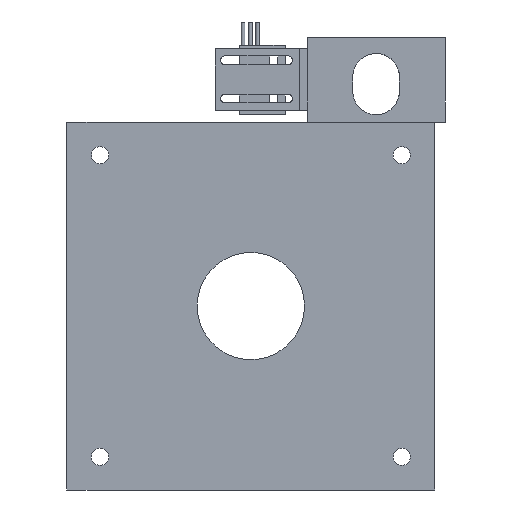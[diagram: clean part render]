
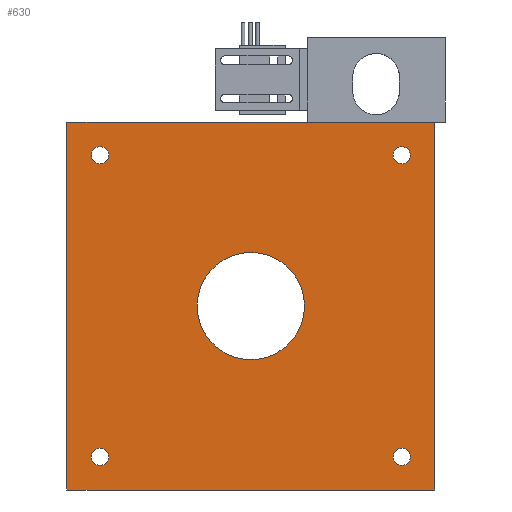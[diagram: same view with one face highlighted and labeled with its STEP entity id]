
A CAD part, front view. The second image highlights one B-rep face of the part: STEP entity #630.
In plain terms, the highlighted planar face has unit normal (0, -1, 0).
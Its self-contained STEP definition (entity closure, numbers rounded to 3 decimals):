
#93=DIRECTION('',(0.,0.,-1.));
#94=VECTOR('',#93,152.4);
#95=CARTESIAN_POINT('',(-76.2,-40.386,76.2));
#96=LINE('',#95,#94);
#97=DIRECTION('',(-1.,0.,0.));
#98=VECTOR('',#97,152.4);
#99=CARTESIAN_POINT('',(76.2,-40.386,76.2));
#100=LINE('',#99,#98);
#101=DIRECTION('',(0.,0.,1.));
#102=VECTOR('',#101,152.4);
#103=CARTESIAN_POINT('',(76.2,-40.386,-76.2));
#104=LINE('',#103,#102);
#105=DIRECTION('',(1.,0.,0.));
#106=VECTOR('',#105,152.4);
#107=CARTESIAN_POINT('',(-76.2,-40.386,-76.2));
#108=LINE('',#107,#106);
#109=CARTESIAN_POINT('',(62.5,-40.386,-62.5));
#110=DIRECTION('',(0.,1.,0.));
#111=DIRECTION('',(-1.,0.,0.));
#112=AXIS2_PLACEMENT_3D('',#109,#110,#111);
#114=CARTESIAN_POINT('',(62.5,-40.386,-62.5));
#115=DIRECTION('',(0.,1.,0.));
#116=DIRECTION('',(1.,0.,0.));
#117=AXIS2_PLACEMENT_3D('',#114,#115,#116);
#119=CARTESIAN_POINT('',(62.5,-40.386,62.5));
#120=DIRECTION('',(0.,-1.,0.));
#121=DIRECTION('',(-1.,0.,0.));
#122=AXIS2_PLACEMENT_3D('',#119,#120,#121);
#124=CARTESIAN_POINT('',(62.5,-40.386,62.5));
#125=DIRECTION('',(0.,-1.,0.));
#126=DIRECTION('',(1.,0.,0.));
#127=AXIS2_PLACEMENT_3D('',#124,#125,#126);
#129=CARTESIAN_POINT('',(-62.5,-40.386,-62.5));
#130=DIRECTION('',(0.,-1.,0.));
#131=DIRECTION('',(1.,0.,0.));
#132=AXIS2_PLACEMENT_3D('',#129,#130,#131);
#134=CARTESIAN_POINT('',(-62.5,-40.386,-62.5));
#135=DIRECTION('',(0.,-1.,0.));
#136=DIRECTION('',(-1.,0.,0.));
#137=AXIS2_PLACEMENT_3D('',#134,#135,#136);
#139=CARTESIAN_POINT('',(-62.5,-40.386,62.5));
#140=DIRECTION('',(0.,1.,0.));
#141=DIRECTION('',(1.,0.,0.));
#142=AXIS2_PLACEMENT_3D('',#139,#140,#141);
#144=CARTESIAN_POINT('',(-62.5,-40.386,62.5));
#145=DIRECTION('',(0.,1.,0.));
#146=DIRECTION('',(-1.,0.,0.));
#147=AXIS2_PLACEMENT_3D('',#144,#145,#146);
#149=CARTESIAN_POINT('',(0.,-40.386,0.));
#150=DIRECTION('',(0.,-1.,0.));
#151=DIRECTION('',(1.,0.,0.));
#152=AXIS2_PLACEMENT_3D('',#149,#150,#151);
#154=CARTESIAN_POINT('',(0.,-40.386,0.));
#155=DIRECTION('',(0.,-1.,0.));
#156=DIRECTION('',(-1.,0.,0.));
#157=AXIS2_PLACEMENT_3D('',#154,#155,#156);
#388=CARTESIAN_POINT('',(-76.2,-40.386,76.2));
#389=CARTESIAN_POINT('',(-76.2,-40.386,-76.2));
#390=VERTEX_POINT('',#388);
#391=VERTEX_POINT('',#389);
#392=CARTESIAN_POINT('',(76.2,-40.386,-76.2));
#393=VERTEX_POINT('',#392);
#394=CARTESIAN_POINT('',(76.2,-40.386,76.2));
#395=VERTEX_POINT('',#394);
#396=CARTESIAN_POINT('',(58.944,-40.386,-62.5));
#397=CARTESIAN_POINT('',(66.056,-40.386,-62.5));
#398=VERTEX_POINT('',#396);
#399=VERTEX_POINT('',#397);
#412=CARTESIAN_POINT('',(58.944,-40.386,62.5));
#413=CARTESIAN_POINT('',(66.056,-40.386,62.5));
#414=VERTEX_POINT('',#412);
#415=VERTEX_POINT('',#413);
#416=CARTESIAN_POINT('',(-58.944,-40.386,-62.5));
#417=CARTESIAN_POINT('',(-66.056,-40.386,-62.5));
#418=VERTEX_POINT('',#416);
#419=VERTEX_POINT('',#417);
#420=CARTESIAN_POINT('',(-58.944,-40.386,62.5));
#421=CARTESIAN_POINT('',(-66.056,-40.386,62.5));
#422=VERTEX_POINT('',#420);
#423=VERTEX_POINT('',#421);
#464=CARTESIAN_POINT('',(22.225,-40.386,0.));
#465=CARTESIAN_POINT('',(-22.225,-40.386,0.));
#466=VERTEX_POINT('',#464);
#467=VERTEX_POINT('',#465);
#589=CARTESIAN_POINT('',(0.,-40.386,0.));
#590=DIRECTION('',(0.,-1.,0.));
#591=DIRECTION('',(0.,0.,-1.));
#592=AXIS2_PLACEMENT_3D('',#589,#590,#591);
#593=PLANE('',#592);
#594=ORIENTED_EDGE('',*,*,#535,.F.);
#595=ORIENTED_EDGE('',*,*,#550,.F.);
#596=ORIENTED_EDGE('',*,*,#570,.F.);
#597=ORIENTED_EDGE('',*,*,#583,.F.);
#598=EDGE_LOOP('',(#594,#595,#596,#597));
#599=FACE_OUTER_BOUND('',#598,.F.);
#601=ORIENTED_EDGE('',*,*,#600,.F.);
#603=ORIENTED_EDGE('',*,*,#602,.F.);
#604=EDGE_LOOP('',(#601,#603));
#605=FACE_BOUND('',#604,.F.);
#607=ORIENTED_EDGE('',*,*,#606,.T.);
#609=ORIENTED_EDGE('',*,*,#608,.T.);
#610=EDGE_LOOP('',(#607,#609));
#611=FACE_BOUND('',#610,.F.);
#613=ORIENTED_EDGE('',*,*,#612,.T.);
#615=ORIENTED_EDGE('',*,*,#614,.T.);
#616=EDGE_LOOP('',(#613,#615));
#617=FACE_BOUND('',#616,.F.);
#619=ORIENTED_EDGE('',*,*,#618,.F.);
#621=ORIENTED_EDGE('',*,*,#620,.F.);
#622=EDGE_LOOP('',(#619,#621));
#623=FACE_BOUND('',#622,.F.);
#625=ORIENTED_EDGE('',*,*,#624,.T.);
#627=ORIENTED_EDGE('',*,*,#626,.T.);
#628=EDGE_LOOP('',(#625,#627));
#629=FACE_BOUND('',#628,.F.);
#630=ADVANCED_FACE('',(#599,#605,#611,#617,#623,#629),#593,.T.);
#113=CIRCLE('',#112,3.556);
#118=CIRCLE('',#117,3.556);
#123=CIRCLE('',#122,3.556);
#128=CIRCLE('',#127,3.556);
#133=CIRCLE('',#132,3.556);
#138=CIRCLE('',#137,3.556);
#143=CIRCLE('',#142,3.556);
#148=CIRCLE('',#147,3.556);
#153=CIRCLE('',#152,22.225);
#158=CIRCLE('',#157,22.225);
#535=EDGE_CURVE('',#390,#391,#96,.T.);
#550=EDGE_CURVE('',#395,#390,#100,.T.);
#570=EDGE_CURVE('',#393,#395,#104,.T.);
#583=EDGE_CURVE('',#391,#393,#108,.T.);
#600=EDGE_CURVE('',#398,#399,#113,.T.);
#602=EDGE_CURVE('',#399,#398,#118,.T.);
#606=EDGE_CURVE('',#414,#415,#123,.T.);
#608=EDGE_CURVE('',#415,#414,#128,.T.);
#612=EDGE_CURVE('',#418,#419,#133,.T.);
#614=EDGE_CURVE('',#419,#418,#138,.T.);
#618=EDGE_CURVE('',#422,#423,#143,.T.);
#620=EDGE_CURVE('',#423,#422,#148,.T.);
#624=EDGE_CURVE('',#466,#467,#153,.T.);
#626=EDGE_CURVE('',#467,#466,#158,.T.);
